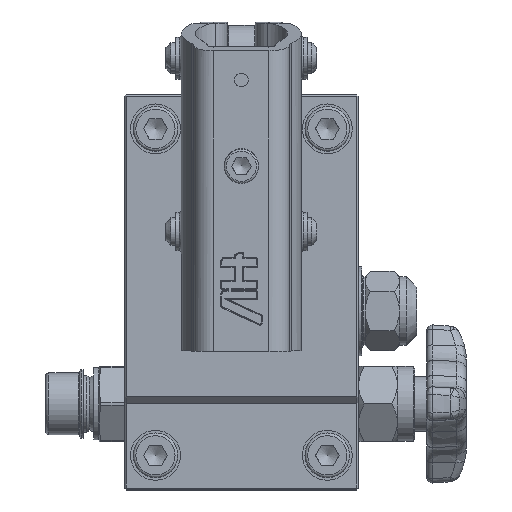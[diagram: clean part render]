
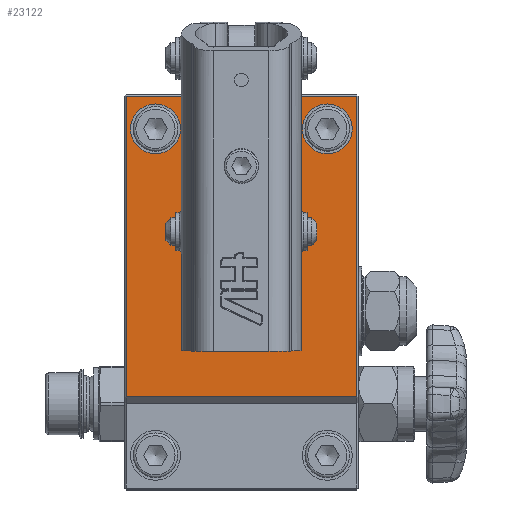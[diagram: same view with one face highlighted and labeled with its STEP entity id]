
A CAD part, top view. The second image highlights one B-rep face of the part: STEP entity #23122.
In plain terms, the highlighted planar face has unit normal (0, 0, 1).
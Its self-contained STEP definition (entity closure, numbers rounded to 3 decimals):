
#23046=CARTESIAN_POINT('',(19.25,75.0,48.));
#23047=VERTEX_POINT('',#23046);
#23048=CARTESIAN_POINT('',(34.,75.0,48.));
#23049=DIRECTION('',(0.0,0.0,1.0));
#23050=DIRECTION('',(1.0,0.0,0.0));
#23051=AXIS2_PLACEMENT_3D('',#23048,#23049,#23050);
#23052=CIRCLE('',#23051,14.75);
#23053=EDGE_CURVE('',#23047,#23047,#23052,.T.);
#23058=CARTESIAN_POINT('',(34.,57.5,48.));
#23059=DIRECTION('',(0.0,0.0,1.0));
#23060=DIRECTION('',(1.0,0.0,0.0));
#23061=AXIS2_PLACEMENT_3D('',#23058,#23059,#23060);
#23062=PLANE('',#23061);
#23063=CARTESIAN_POINT('',(67.5,27.,48.));
#23064=VERTEX_POINT('',#23063);
#23065=CARTESIAN_POINT('',(0.5,27.,48.));
#23066=VERTEX_POINT('',#23065);
#23067=CARTESIAN_POINT('',(67.5,27.,48.));
#23068=DIRECTION('',(-1.0,0.0,0.0));
#23069=VECTOR('',#23068,67.);
#23070=LINE('',#23067,#23069);
#23071=EDGE_CURVE('',#23064,#23066,#23070,.T.);
#23072=ORIENTED_EDGE('',*,*,#23071,.F.);
#23073=CARTESIAN_POINT('',(67.5,114.5,48.));
#23074=VERTEX_POINT('',#23073);
#23075=CARTESIAN_POINT('',(67.5,114.5,48.));
#23076=DIRECTION('',(0.0,-1.0,0.0));
#23077=VECTOR('',#23076,87.5);
#23078=LINE('',#23075,#23077);
#23079=EDGE_CURVE('',#23074,#23064,#23078,.T.);
#23080=ORIENTED_EDGE('',*,*,#23079,.F.);
#23081=CARTESIAN_POINT('',(0.5,114.5,48.));
#23082=VERTEX_POINT('',#23081);
#23083=CARTESIAN_POINT('',(0.5,114.5,48.));
#23084=DIRECTION('',(1.0,0.0,0.0));
#23085=VECTOR('',#23084,67.0);
#23086=LINE('',#23083,#23085);
#23087=EDGE_CURVE('',#23082,#23074,#23086,.T.);
#23088=ORIENTED_EDGE('',*,*,#23087,.F.);
#23089=CARTESIAN_POINT('',(0.5,27.,48.));
#23090=DIRECTION('',(0.0,1.0,0.0));
#23091=VECTOR('',#23090,87.5);
#23092=LINE('',#23089,#23091);
#23093=EDGE_CURVE('',#23066,#23082,#23092,.T.);
#23094=ORIENTED_EDGE('',*,*,#23093,.F.);
#23095=EDGE_LOOP('',(#23072,#23080,#23088,#23094));
#23096=FACE_OUTER_BOUND('',#23095,.T.);
#23097=CARTESIAN_POINT('',(66.25,105.0,48.));
#23098=VERTEX_POINT('',#23097);
#23099=CARTESIAN_POINT('',(59.,105.0,48.));
#23100=DIRECTION('',(0.0,0.0,-1.0));
#23101=DIRECTION('',(-1.0,0.0,0.0));
#23102=AXIS2_PLACEMENT_3D('',#23099,#23100,#23101);
#23103=CIRCLE('',#23102,7.25);
#23104=EDGE_CURVE('',#23098,#23098,#23103,.T.);
#23105=ORIENTED_EDGE('',*,*,#23104,.T.);
#23106=EDGE_LOOP('',(#23105));
#23107=FACE_BOUND('',#23106,.T.);
#23108=CARTESIAN_POINT('',(16.25,105.0,48.));
#23109=VERTEX_POINT('',#23108);
#23110=CARTESIAN_POINT('',(9.,105.0,48.));
#23111=DIRECTION('',(0.0,0.0,-1.0));
#23112=DIRECTION('',(-1.0,0.0,0.0));
#23113=AXIS2_PLACEMENT_3D('',#23110,#23111,#23112);
#23114=CIRCLE('',#23113,7.25);
#23115=EDGE_CURVE('',#23109,#23109,#23114,.T.);
#23116=ORIENTED_EDGE('',*,*,#23115,.T.);
#23117=EDGE_LOOP('',(#23116));
#23118=FACE_BOUND('',#23117,.T.);
#23119=ORIENTED_EDGE('',*,*,#23053,.F.);
#23120=EDGE_LOOP('',(#23119));
#23121=FACE_BOUND('',#23120,.T.);
#23122=ADVANCED_FACE('',(#23096,#23107,#23118,#23121),#23062,.T.);
